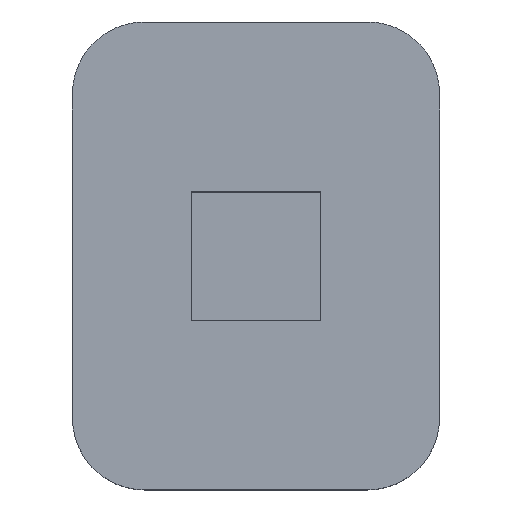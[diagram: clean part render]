
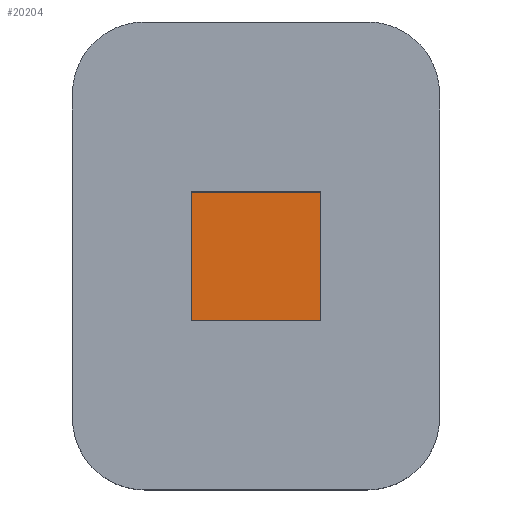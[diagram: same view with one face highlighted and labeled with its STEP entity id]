
A CAD part, top view. The second image highlights one B-rep face of the part: STEP entity #20204.
In plain terms, the highlighted free-form (B-spline) face has degree [1, 1] with [2, 2] control points.
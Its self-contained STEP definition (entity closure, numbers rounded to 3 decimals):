
#19944 = B_SPLINE_SURFACE_WITH_KNOTS('',1,1,(
    (#19945,#19946)
    ,(#19947,#19948
  )),.UNSPECIFIED.,.F.,.F.,.F.,(2,2),(2,2),(0.,70.866),(-393.701,0.),
  .PIECEWISE_BEZIER_KNOTS.);
#19945 = CARTESIAN_POINT('',(63.299,-15.905,
    35.));
#19946 = CARTESIAN_POINT('',(63.299,-15.905,
    25.));
#19947 = CARTESIAN_POINT('',(63.299,-14.105,
    35.));
#19948 = CARTESIAN_POINT('',(63.299,-14.105,
    25.));
#19969 = B_SPLINE_SURFACE_WITH_KNOTS('',1,1,(
    (#19970,#19971)
    ,(#19972,#19973
  )),.UNSPECIFIED.,.F.,.F.,.F.,(2,2),(2,2),(0.,70.866),(-393.701,0.),
  .PIECEWISE_BEZIER_KNOTS.);
#19970 = CARTESIAN_POINT('',(65.099,-15.905,
    35.));
#19971 = CARTESIAN_POINT('',(65.099,-15.905,
    25.));
#19972 = CARTESIAN_POINT('',(63.299,-15.905,
    35.));
#19973 = CARTESIAN_POINT('',(63.299,-15.905,
    25.));
#19994 = B_SPLINE_SURFACE_WITH_KNOTS('',1,1,(
    (#19995,#19996)
    ,(#19997,#19998
  )),.UNSPECIFIED.,.F.,.F.,.F.,(2,2),(2,2),(0.,70.866),(-393.701,0.),
  .PIECEWISE_BEZIER_KNOTS.);
#19995 = CARTESIAN_POINT('',(65.099,-14.105,
    35.));
#19996 = CARTESIAN_POINT('',(65.099,-14.105,
    25.));
#19997 = CARTESIAN_POINT('',(65.099,-15.905,
    35.));
#19998 = CARTESIAN_POINT('',(65.099,-15.905,
    25.));
#20017 = B_SPLINE_SURFACE_WITH_KNOTS('',1,1,(
    (#20018,#20019)
    ,(#20020,#20021
  )),.UNSPECIFIED.,.F.,.F.,.F.,(2,2),(2,2),(0.,70.866),(-393.701,0.),
  .PIECEWISE_BEZIER_KNOTS.);
#20018 = CARTESIAN_POINT('',(63.299,-14.105,
    35.));
#20019 = CARTESIAN_POINT('',(63.299,-14.105,
    25.));
#20020 = CARTESIAN_POINT('',(65.099,-14.105,
    35.));
#20021 = CARTESIAN_POINT('',(65.099,-14.105,
    25.));
#20032 = VERTEX_POINT('',#20033);
#20033 = CARTESIAN_POINT('',(63.299,-15.905,
    25.));
#20053 = VERTEX_POINT('',#20054);
#20054 = CARTESIAN_POINT('',(63.299,-14.105,
    25.));
#20072 = EDGE_CURVE('',#20032,#20053,#20073,.T.);
#20073 = SURFACE_CURVE('',#20074,(#20077,#20083),.PCURVE_S1.);
#20074 = B_SPLINE_CURVE_WITH_KNOTS('',1,(#20075,#20076),.UNSPECIFIED.,
  .F.,.F.,(2,2),(0.,70.866),.PIECEWISE_BEZIER_KNOTS.);
#20075 = CARTESIAN_POINT('',(63.299,-15.905,
    25.));
#20076 = CARTESIAN_POINT('',(63.299,-14.105,
    25.));
#20077 = PCURVE('',#19944,#20078);
#20078 = DEFINITIONAL_REPRESENTATION('',(#20079),#20082);
#20079 = B_SPLINE_CURVE_WITH_KNOTS('',1,(#20080,#20081),.UNSPECIFIED.,
  .F.,.F.,(2,2),(0.,70.866),.PIECEWISE_BEZIER_KNOTS.);
#20080 = CARTESIAN_POINT('',(0.,0.));
#20081 = CARTESIAN_POINT('',(70.866,0.));
#20082 = ( GEOMETRIC_REPRESENTATION_CONTEXT(2) 
PARAMETRIC_REPRESENTATION_CONTEXT() REPRESENTATION_CONTEXT('2D SPACE',''
  ) );
#20083 = PCURVE('',#20084,#20089);
#20084 = B_SPLINE_SURFACE_WITH_KNOTS('',1,1,(
    (#20085,#20086)
    ,(#20087,#20088
    )),.UNSPECIFIED.,.F.,.F.,.F.,(2,2),(2,2),(-35.433,35.433),(
    -35.433,35.433),.PIECEWISE_BEZIER_KNOTS.);
#20085 = CARTESIAN_POINT('',(65.099,-15.905,
    25.));
#20086 = CARTESIAN_POINT('',(65.099,-14.105,
    25.));
#20087 = CARTESIAN_POINT('',(63.299,-15.905,
    25.));
#20088 = CARTESIAN_POINT('',(63.299,-14.105,
    25.));
#20089 = DEFINITIONAL_REPRESENTATION('',(#20090),#20093);
#20090 = B_SPLINE_CURVE_WITH_KNOTS('',1,(#20091,#20092),.UNSPECIFIED.,
  .F.,.F.,(2,2),(0.,70.866),.PIECEWISE_BEZIER_KNOTS.);
#20091 = CARTESIAN_POINT('',(35.433,-35.433));
#20092 = CARTESIAN_POINT('',(35.433,35.433));
#20093 = ( GEOMETRIC_REPRESENTATION_CONTEXT(2) 
PARAMETRIC_REPRESENTATION_CONTEXT() REPRESENTATION_CONTEXT('2D SPACE',''
  ) );
#20101 = VERTEX_POINT('',#20102);
#20102 = CARTESIAN_POINT('',(65.099,-14.105,
    25.));
#20120 = EDGE_CURVE('',#20053,#20101,#20121,.T.);
#20121 = SURFACE_CURVE('',#20122,(#20125,#20131),.PCURVE_S1.);
#20122 = B_SPLINE_CURVE_WITH_KNOTS('',1,(#20123,#20124),.UNSPECIFIED.,
  .F.,.F.,(2,2),(0.,70.866),.PIECEWISE_BEZIER_KNOTS.);
#20123 = CARTESIAN_POINT('',(63.299,-14.105,
    25.));
#20124 = CARTESIAN_POINT('',(65.099,-14.105,
    25.));
#20125 = PCURVE('',#20017,#20126);
#20126 = DEFINITIONAL_REPRESENTATION('',(#20127),#20130);
#20127 = B_SPLINE_CURVE_WITH_KNOTS('',1,(#20128,#20129),.UNSPECIFIED.,
  .F.,.F.,(2,2),(0.,70.866),.PIECEWISE_BEZIER_KNOTS.);
#20128 = CARTESIAN_POINT('',(0.,0.));
#20129 = CARTESIAN_POINT('',(70.866,0.));
#20130 = ( GEOMETRIC_REPRESENTATION_CONTEXT(2) 
PARAMETRIC_REPRESENTATION_CONTEXT() REPRESENTATION_CONTEXT('2D SPACE',''
  ) );
#20131 = PCURVE('',#20084,#20132);
#20132 = DEFINITIONAL_REPRESENTATION('',(#20133),#20136);
#20133 = B_SPLINE_CURVE_WITH_KNOTS('',1,(#20134,#20135),.UNSPECIFIED.,
  .F.,.F.,(2,2),(0.,70.866),.PIECEWISE_BEZIER_KNOTS.);
#20134 = CARTESIAN_POINT('',(35.433,35.433));
#20135 = CARTESIAN_POINT('',(-35.433,35.433));
#20136 = ( GEOMETRIC_REPRESENTATION_CONTEXT(2) 
PARAMETRIC_REPRESENTATION_CONTEXT() REPRESENTATION_CONTEXT('2D SPACE',''
  ) );
#20144 = VERTEX_POINT('',#20145);
#20145 = CARTESIAN_POINT('',(65.099,-15.905,
    25.));
#20163 = EDGE_CURVE('',#20101,#20144,#20164,.T.);
#20164 = SURFACE_CURVE('',#20165,(#20168,#20174),.PCURVE_S1.);
#20165 = B_SPLINE_CURVE_WITH_KNOTS('',1,(#20166,#20167),.UNSPECIFIED.,
  .F.,.F.,(2,2),(0.,70.866),.PIECEWISE_BEZIER_KNOTS.);
#20166 = CARTESIAN_POINT('',(65.099,-14.105,
    25.));
#20167 = CARTESIAN_POINT('',(65.099,-15.905,
    25.));
#20168 = PCURVE('',#19994,#20169);
#20169 = DEFINITIONAL_REPRESENTATION('',(#20170),#20173);
#20170 = B_SPLINE_CURVE_WITH_KNOTS('',1,(#20171,#20172),.UNSPECIFIED.,
  .F.,.F.,(2,2),(0.,70.866),.PIECEWISE_BEZIER_KNOTS.);
#20171 = CARTESIAN_POINT('',(0.,0.));
#20172 = CARTESIAN_POINT('',(70.866,0.));
#20173 = ( GEOMETRIC_REPRESENTATION_CONTEXT(2) 
PARAMETRIC_REPRESENTATION_CONTEXT() REPRESENTATION_CONTEXT('2D SPACE',''
  ) );
#20174 = PCURVE('',#20084,#20175);
#20175 = DEFINITIONAL_REPRESENTATION('',(#20176),#20179);
#20176 = B_SPLINE_CURVE_WITH_KNOTS('',1,(#20177,#20178),.UNSPECIFIED.,
  .F.,.F.,(2,2),(0.,70.866),.PIECEWISE_BEZIER_KNOTS.);
#20177 = CARTESIAN_POINT('',(-35.433,35.433));
#20178 = CARTESIAN_POINT('',(-35.433,-35.433));
#20179 = ( GEOMETRIC_REPRESENTATION_CONTEXT(2) 
PARAMETRIC_REPRESENTATION_CONTEXT() REPRESENTATION_CONTEXT('2D SPACE',''
  ) );
#20187 = EDGE_CURVE('',#20144,#20032,#20188,.T.);
#20188 = SURFACE_CURVE('',#20189,(#20192,#20198),.PCURVE_S1.);
#20189 = B_SPLINE_CURVE_WITH_KNOTS('',1,(#20190,#20191),.UNSPECIFIED.,
  .F.,.F.,(2,2),(0.,70.866),.PIECEWISE_BEZIER_KNOTS.);
#20190 = CARTESIAN_POINT('',(65.099,-15.905,
    25.));
#20191 = CARTESIAN_POINT('',(63.299,-15.905,
    25.));
#20192 = PCURVE('',#19969,#20193);
#20193 = DEFINITIONAL_REPRESENTATION('',(#20194),#20197);
#20194 = B_SPLINE_CURVE_WITH_KNOTS('',1,(#20195,#20196),.UNSPECIFIED.,
  .F.,.F.,(2,2),(0.,70.866),.PIECEWISE_BEZIER_KNOTS.);
#20195 = CARTESIAN_POINT('',(0.,0.));
#20196 = CARTESIAN_POINT('',(70.866,0.));
#20197 = ( GEOMETRIC_REPRESENTATION_CONTEXT(2) 
PARAMETRIC_REPRESENTATION_CONTEXT() REPRESENTATION_CONTEXT('2D SPACE',''
  ) );
#20198 = PCURVE('',#20084,#20199);
#20199 = DEFINITIONAL_REPRESENTATION('',(#20200),#20203);
#20200 = B_SPLINE_CURVE_WITH_KNOTS('',1,(#20201,#20202),.UNSPECIFIED.,
  .F.,.F.,(2,2),(0.,70.866),.PIECEWISE_BEZIER_KNOTS.);
#20201 = CARTESIAN_POINT('',(-35.433,-35.433));
#20202 = CARTESIAN_POINT('',(35.433,-35.433));
#20203 = ( GEOMETRIC_REPRESENTATION_CONTEXT(2) 
PARAMETRIC_REPRESENTATION_CONTEXT() REPRESENTATION_CONTEXT('2D SPACE',''
  ) );
#20204 = ADVANCED_FACE('',(#20205),#20084,.F.);
#20205 = FACE_BOUND('',#20206,.F.);
#20206 = EDGE_LOOP('',(#20207,#20208,#20209,#20210));
#20207 = ORIENTED_EDGE('',*,*,#20072,.T.);
#20208 = ORIENTED_EDGE('',*,*,#20120,.T.);
#20209 = ORIENTED_EDGE('',*,*,#20163,.T.);
#20210 = ORIENTED_EDGE('',*,*,#20187,.T.);
